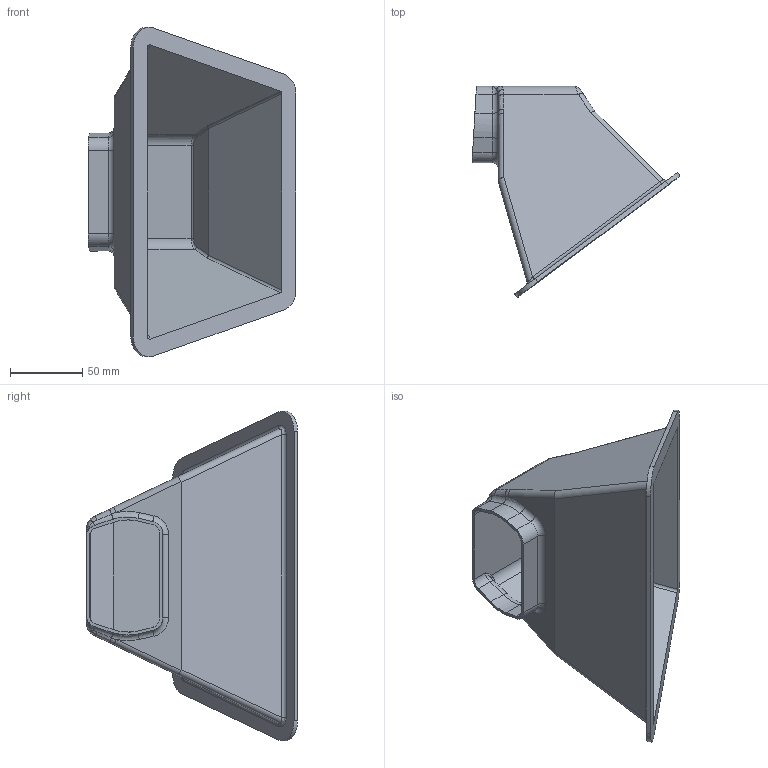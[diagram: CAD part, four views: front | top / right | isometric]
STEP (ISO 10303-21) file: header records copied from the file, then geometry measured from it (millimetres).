
FILE_DESCRIPTION(/* description */ (''),/* implementation_level */ '2;1');
FILE_NAME(/* name */ 'C:\Users\Ospi\Desktop\FD-001-1_FlashMacroDiffuser.stp',/* time_stamp */ '2018-05-30T21:33:43+10:00',/* author */ ('Ospi'),/* organization */ (''),/* preprocessor_version */ 'ST-DEVELOPER v17',/* originating_system */ 'Autodesk Inventor 2019',/* authorisation */ '');
FILE_SCHEMA (('AUTOMOTIVE_DESIGN { 1 0 10303 214 3 1 1 }'));
Length unit declared in the file: millimetre
Products named in the file (1): FD-001-1_FlashDiffuser
Bounding box: 143.52 x 145.68 x 227.61 mm (x, y, z)
Volume: 129530.2 mm3; surface area: 123903.2 mm2
Topology: 1 solids, 1 shells, 123 faces, 304 edges, 180 vertices
Faces by surface type: cylinder 48, bspline 32, plane 31, torus 12
Entity records: 4617 total; most frequent: CARTESIAN_POINT 1792, ORIENTED_EDGE 600, DIRECTION 560, EDGE_CURVE 300, AXIS2_PLACEMENT_3D 216, VERTEX_POINT 180, LINE 128, VECTOR 128
